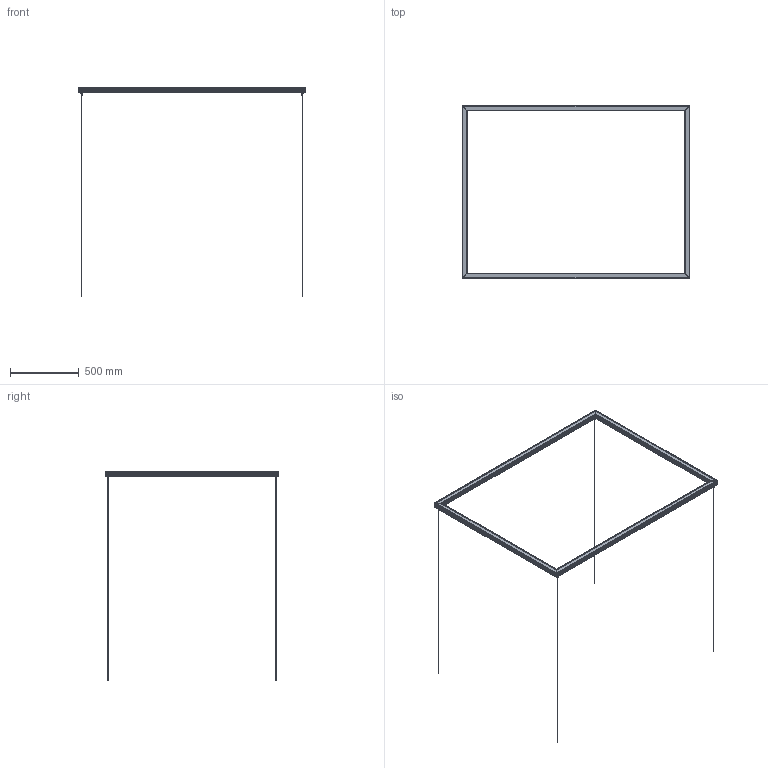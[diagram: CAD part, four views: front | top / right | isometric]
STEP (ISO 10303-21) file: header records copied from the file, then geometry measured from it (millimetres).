
FILE_DESCRIPTION(/* description */ ('Unknown'),/* implementation_level */ '2;1');
FILE_NAME(/* name */ 'TOUR Q 49.4X65.2',/* time_stamp */ '2023-01-24T08:27:18-05:00',/* author */ ('Unknown'),/* organization */ ('Unknown'),/* preprocessor_version */ 'ST-DEVELOPER v18.1',/* originating_system */ 'Solid Edge',/* authorisation */ 'Unknown');
FILE_SCHEMA (('AUTOMOTIVE_DESIGN {1 0 10303 214 3 1 1}'));
Length unit declared in the file: millimetre
Products named in the file (1): TOUR Q 49.4X65.2
Bounding box: 1655 x 1256 x 1523.64 mm (x, y, z)
Volume: 2416209.1 mm3; surface area: 2157128 mm2
Topology: 20 solids, 20 shells, 1068 faces, 3100 edges, 2064 vertices
Faces by surface type: plane 604, cylinder 432, cone 28, torus 4
Full cylindrical faces by diameter (mm): 2.3 x4, 3 x4, 4.134 x4, 6.8 x4, 8.917 x4, 10 x8, 12.4 x4
Entity records: 39659 total; most frequent: CARTESIAN_POINT 6849, ORIENTED_EDGE 6016, DIRECTION 5818, EDGE_CURVE 3008, VERTEX_POINT 2036, AXIS2_PLACEMENT_3D 1949, LINE 1920, VECTOR 1920
